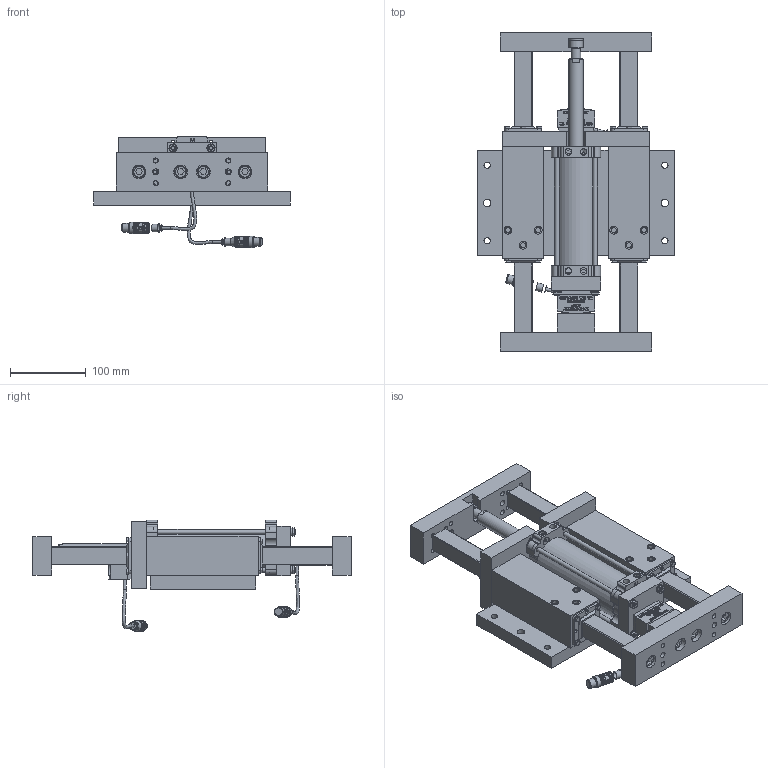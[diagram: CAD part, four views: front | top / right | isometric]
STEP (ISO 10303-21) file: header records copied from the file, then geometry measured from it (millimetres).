
FILE_DESCRIPTION(/* description */ (''),/* implementation_level */ '2;1');
FILE_NAME(/* name */ 'C:\Vault Workspace\CAD\Welker\Shot Pin\DBL24\STANDARD\DB2075B01XP1XXX0000-EXT.stp',/* time_stamp */ '2018-03-26T07:02:51-04:00',/* author */ ('KLabrecque'),/* organization */ (''),/* preprocessor_version */ 'ST-DEVELOPER v17',/* originating_system */ 'Autodesk Inventor 2018',/* authorisation */ '');
FILE_SCHEMA (('AUTOMOTIVE_DESIGN { 1 0 10303 214 3 1 1 }'));
Products named in the file (1): DB2L01_Shrinkwrap_1
Bounding box: 260 x 421 x 147.3 mm (x, y, z)
Volume: 2892543.5 mm3; surface area: 674724.7 mm2
Topology: 111 solids, 111 shells, 3311 faces, 8276 edges, 5511 vertices
Faces by surface type: plane 1792, cylinder 547, bspline 526, cone 423, torus 23
Full cylindrical faces by diameter (mm): 2.5 x1, 3.175 x3, 3.734 x16, 4.064 x2, 4.166 x16, 4.2 x2, 4.763 x32, 4.917 x12, 5.359 x8, 6 x12, 6.35 x2, 6.5 x26, 6.63 x2, 6.647 x14, 7.95 x4, 8 x26, 8.13 x2, 8.334 x12, 8.376 x14, 8.5 x12, 8.7 x12, 9.728 x3, 10 x20, 10.211 x2, 10.287 x2, 10.35 x24, 10.494 x2, 10.5 x10, 10.7 x4, 10.8 x4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
Entity records: 107496 total; most frequent: CARTESIAN_POINT 27484, ORIENTED_EDGE 16446, DIRECTION 14229, EDGE_CURVE 8223, VERTEX_POINT 5511, AXIS2_PLACEMENT_3D 4822, LINE 4585, VECTOR 4585
